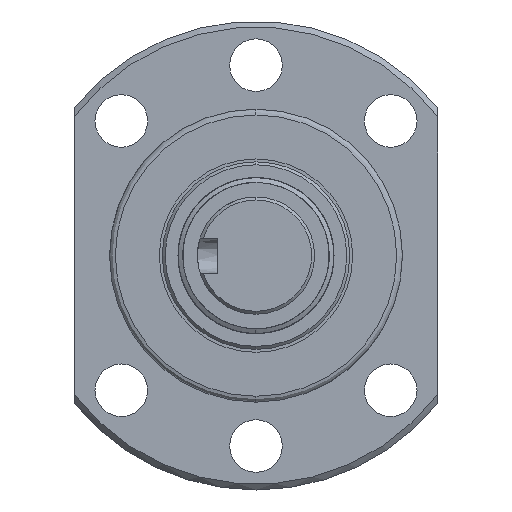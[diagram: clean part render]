
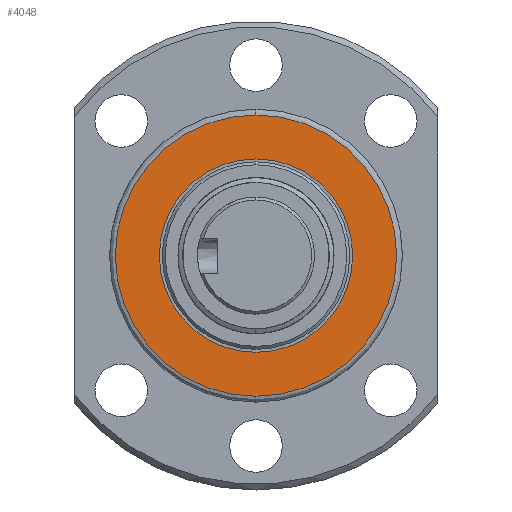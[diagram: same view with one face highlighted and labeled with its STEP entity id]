
A CAD part, left-side view. The second image highlights one B-rep face of the part: STEP entity #4048.
In plain terms, the highlighted planar face has unit normal (-1, 0, 0).
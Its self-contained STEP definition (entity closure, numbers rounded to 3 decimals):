
#124 = CARTESIAN_POINT ( 'NONE',  ( -67., 0., 0. ) ) ;
#143 = CARTESIAN_POINT ( 'NONE',  ( -67., 0., 24. ) ) ;
#222 = DIRECTION ( 'NONE',  ( 0., 0., 1. ) ) ;
#417 = AXIS2_PLACEMENT_3D ( 'NONE', #5234, #5752, #4756 ) ;
#676 = DIRECTION ( 'NONE',  ( -1., 0., 0. ) ) ;
#1024 = VERTEX_POINT ( 'NONE', #5696 ) ;
#1076 = ORIENTED_EDGE ( 'NONE', *, *, #2024, .F. ) ;
#1095 = FACE_BOUND ( 'NONE', #1402, .T. ) ;
#1121 = DIRECTION ( 'NONE',  ( 0., 0., -1. ) ) ;
#1402 = EDGE_LOOP ( 'NONE', ( #5923, #6155 ) ) ;
#1465 = EDGE_LOOP ( 'NONE', ( #4693, #1076 ) ) ;
#1545 = DIRECTION ( 'NONE',  ( 1., 0., 0. ) ) ;
#1566 = VERTEX_POINT ( 'NONE', #143 ) ;
#1746 = CIRCLE ( 'NONE', #417, 24. ) ;
#2024 = EDGE_CURVE ( 'NONE', #1566, #4214, #1746, .T. ) ;
#2167 = EDGE_CURVE ( 'NONE', #4214, #1566, #5942, .T. ) ;
#2336 = CARTESIAN_POINT ( 'NONE',  ( -67., 0., -24. ) ) ;
#2556 = AXIS2_PLACEMENT_3D ( 'NONE', #124, #676, #222 ) ;
#2851 = CARTESIAN_POINT ( 'NONE',  ( -67., 0., -16.5 ) ) ;
#3153 = FACE_OUTER_BOUND ( 'NONE', #1465, .T. ) ;
#3275 = EDGE_CURVE ( 'NONE', #5523, #1024, #3751, .T. ) ;
#3427 = CIRCLE ( 'NONE', #5801, 16.5 ) ;
#3530 = AXIS2_PLACEMENT_3D ( 'NONE', #6161, #1545, #3596 ) ;
#3596 = DIRECTION ( 'NONE',  ( 0., 1., 0. ) ) ;
#3651 = DIRECTION ( 'NONE',  ( 0., 0., 1. ) ) ;
#3682 = CARTESIAN_POINT ( 'NONE',  ( -67., 0., 0. ) ) ;
#3751 = CIRCLE ( 'NONE', #2556, 16.5 ) ;
#3784 = DIRECTION ( 'NONE',  ( 1., 0., 0. ) ) ;
#4048 = ADVANCED_FACE ( 'NONE', ( #1095, #3153 ), #4098, .F. ) ;
#4098 = PLANE ( 'NONE',  #3530 ) ;
#4214 = VERTEX_POINT ( 'NONE', #2336 ) ;
#4455 = EDGE_CURVE ( 'NONE', #1024, #5523, #3427, .T. ) ;
#4522 = AXIS2_PLACEMENT_3D ( 'NONE', #3682, #3784, #1121 ) ;
#4693 = ORIENTED_EDGE ( 'NONE', *, *, #2167, .F. ) ;
#4756 = DIRECTION ( 'NONE',  ( 0., 0., -1. ) ) ;
#5234 = CARTESIAN_POINT ( 'NONE',  ( -67., 0., 0. ) ) ;
#5523 = VERTEX_POINT ( 'NONE', #2851 ) ;
#5577 = CARTESIAN_POINT ( 'NONE',  ( -67., 0., 0. ) ) ;
#5696 = CARTESIAN_POINT ( 'NONE',  ( -67., 0., 16.5 ) ) ;
#5752 = DIRECTION ( 'NONE',  ( 1., 0., 0. ) ) ;
#5801 = AXIS2_PLACEMENT_3D ( 'NONE', #5577, #6120, #3651 ) ;
#5923 = ORIENTED_EDGE ( 'NONE', *, *, #4455, .F. ) ;
#5942 = CIRCLE ( 'NONE', #4522, 24. ) ;
#6120 = DIRECTION ( 'NONE',  ( -1., 0., 0. ) ) ;
#6155 = ORIENTED_EDGE ( 'NONE', *, *, #3275, .F. ) ;
#6161 = CARTESIAN_POINT ( 'NONE',  ( -67., 21.5, 0. ) ) ;
